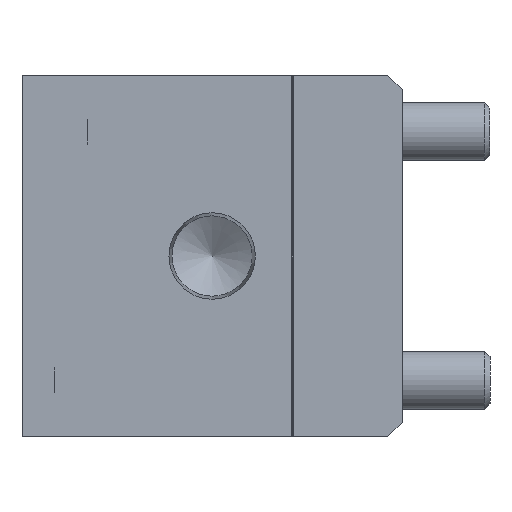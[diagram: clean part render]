
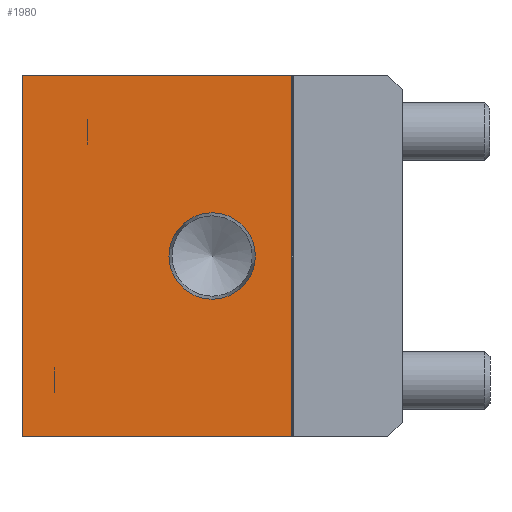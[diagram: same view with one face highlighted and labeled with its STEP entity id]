
A CAD part, left-side view. The second image highlights one B-rep face of the part: STEP entity #1980.
In plain terms, the highlighted planar face has unit normal (-1, 0, 0).
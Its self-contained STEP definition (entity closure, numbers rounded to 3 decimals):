
#1980 = ADVANCED_FACE( '', ( #4209, #4210 ), #4211, .F. );
#4209 = FACE_BOUND( '', #6552, .T. );
#4210 = FACE_OUTER_BOUND( '', #6553, .T. );
#4211 = PLANE( '', #6554 );
#6552 = EDGE_LOOP( '', ( #11161 ) );
#6553 = EDGE_LOOP( '', ( #11162, #11163, #11164, #11165 ) );
#6554 = AXIS2_PLACEMENT_3D( '', #11166, #11167, #11168 );
#11161 = ORIENTED_EDGE( '', *, *, #13875, .T. );
#11162 = ORIENTED_EDGE( '', *, *, #13371, .F. );
#11163 = ORIENTED_EDGE( '', *, *, #14048, .F. );
#11164 = ORIENTED_EDGE( '', *, *, #12941, .T. );
#11165 = ORIENTED_EDGE( '', *, *, #14049, .T. );
#11166 = CARTESIAN_POINT( '', ( 0., 52., 24.75 ) );
#11167 = DIRECTION( '', ( 1., 0., 0. ) );
#11168 = DIRECTION( '', ( 0., 0., -1. ) );
#12941 = EDGE_CURVE( '', #15332, #15330, #15333, .T. );
#13371 = EDGE_CURVE( '', #15971, #14867, #15973, .T. );
#13875 = EDGE_CURVE( '', #16634, #16634, #16635, .T. );
#14048 = EDGE_CURVE( '', #15332, #15971, #16824, .T. );
#14049 = EDGE_CURVE( '', #15330, #14867, #16825, .T. );
#14867 = VERTEX_POINT( '', #17823 );
#15330 = VERTEX_POINT( '', #18443 );
#15332 = VERTEX_POINT( '', #18446 );
#15333 = LINE( '', #18447, #18448 );
#15971 = VERTEX_POINT( '', #19290 );
#15973 = LINE( '', #19293, #19294 );
#16634 = VERTEX_POINT( '', #20159 );
#16635 = CIRCLE( '', #20160, 5.91 );
#16824 = LINE( '', #20399, #20400 );
#16825 = LINE( '', #20401, #20402 );
#17823 = CARTESIAN_POINT( '', ( 0., 15.1, -24.75 ) );
#18443 = CARTESIAN_POINT( '', ( 0., 52., -24.75 ) );
#18446 = CARTESIAN_POINT( '', ( 0., 52., 24.75 ) );
#18447 = CARTESIAN_POINT( '', ( 0., 52., 24.75 ) );
#18448 = VECTOR( '', #21470, 1000. );
#19290 = CARTESIAN_POINT( '', ( 0., 15.1, 24.75 ) );
#19293 = CARTESIAN_POINT( '', ( 0., 15.1, 24.75 ) );
#19294 = VECTOR( '', #21976, 1000. );
#20159 = CARTESIAN_POINT( '', ( 0., 26., -5.91 ) );
#20160 = AXIS2_PLACEMENT_3D( '', #22526, #22527, #22528 );
#20399 = CARTESIAN_POINT( '', ( 0., 52., 24.75 ) );
#20400 = VECTOR( '', #22660, 1000. );
#20401 = CARTESIAN_POINT( '', ( 0., 52., -24.75 ) );
#20402 = VECTOR( '', #22661, 1000. );
#21470 = DIRECTION( '', ( 0., 0., -1. ) );
#21976 = DIRECTION( '', ( 0., 0., -1. ) );
#22526 = CARTESIAN_POINT( '', ( 0., 26., 0. ) );
#22527 = DIRECTION( '', ( 1., 0., 0. ) );
#22528 = DIRECTION( '', ( 0., 0., -1. ) );
#22660 = DIRECTION( '', ( 0., -1., 0. ) );
#22661 = DIRECTION( '', ( 0., -1., 0. ) );
